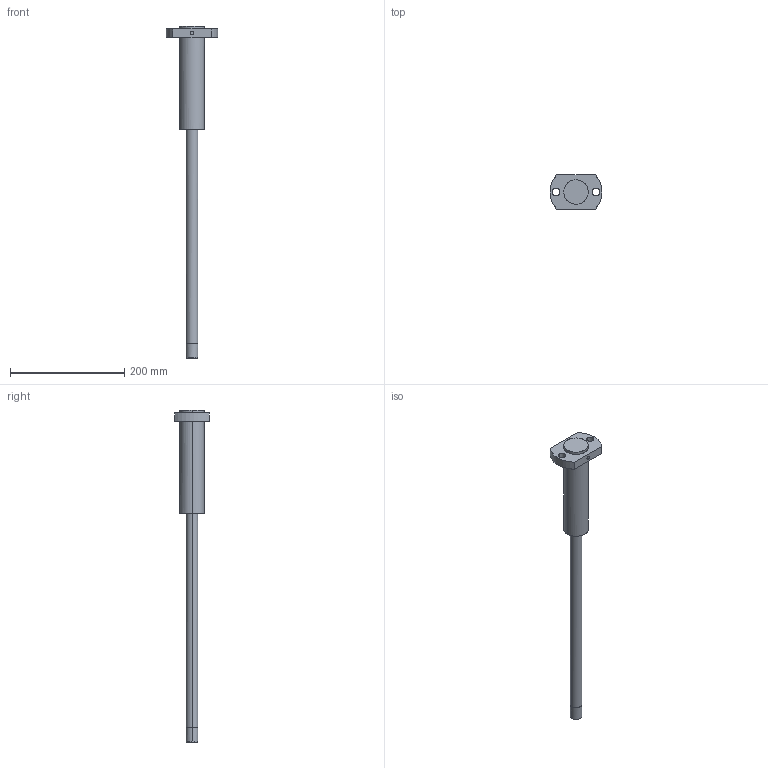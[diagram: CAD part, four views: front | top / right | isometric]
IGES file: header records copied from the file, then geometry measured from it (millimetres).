
Global section: file name: E:\UnigraphicsGraphicData\MISUMI_PRESS-PARTS\IGES\3d_papzu20-400-180-160-350_01718_r00.igs; native system: NX V5.0; preprocessor: UGS NX IGES V5.0; author: MISUMI; date: 20110105.162231; units: millimetre
Bounding box: 90 x 60 x 580 mm (x, y, z)
Surface area: 68906.6 mm2 (no closed solid volume)
Topology: 0 solids, 0 shells, 32 faces, 292 edges, 292 vertices
Faces by surface type: bspline 32
